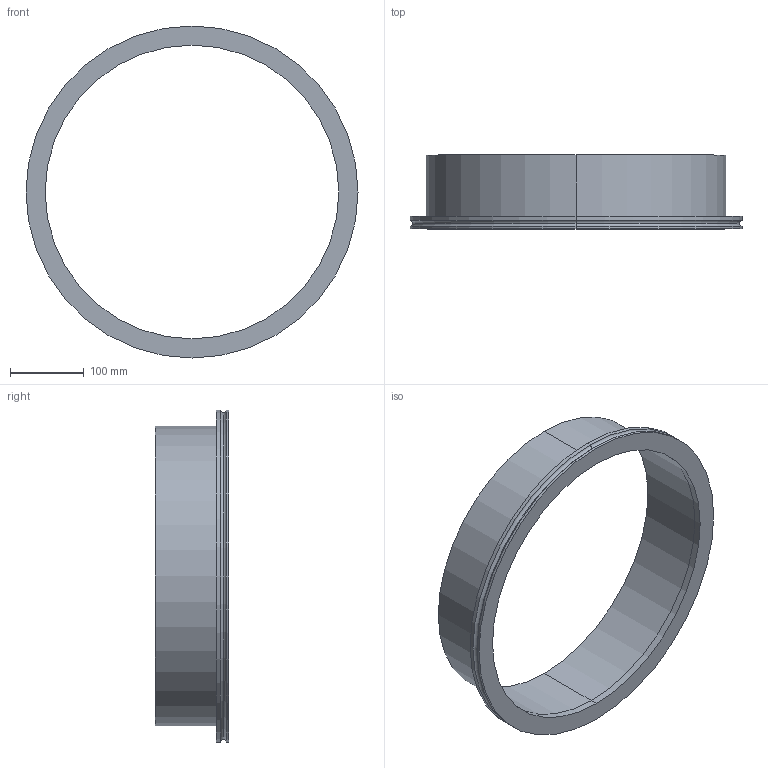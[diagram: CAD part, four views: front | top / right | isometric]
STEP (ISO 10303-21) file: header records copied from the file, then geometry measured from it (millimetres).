
FILE_DESCRIPTION (( 'STEP AP214' ), '1' );
FILE_NAME ('W4KR400.STEP', '2019-04-06T08:13:07', ( '' ), ( '' ), 'SwSTEP 2.0', 'SolidWorks 2018', '' );
FILE_SCHEMA (( 'AUTOMOTIVE_DESIGN' ));
Length unit declared in the file: millimetre
Products named in the file (1): W4KR400
Bounding box: 450 x 100 x 450 mm (x, y, z)
Volume: 919253.9 mm3; surface area: 358665.8 mm2
Topology: 2 solids, 2 shells, 24 faces, 48 edges, 30 vertices
Faces by surface type: cylinder 14, plane 6, torus 4
Entity records: 689 total; most frequent: DIRECTION 132, CARTESIAN_POINT 103, ORIENTED_EDGE 96, AXIS2_PLACEMENT_3D 59, EDGE_CURVE 48, CIRCLE 34, EDGE_LOOP 30, VERTEX_POINT 30
